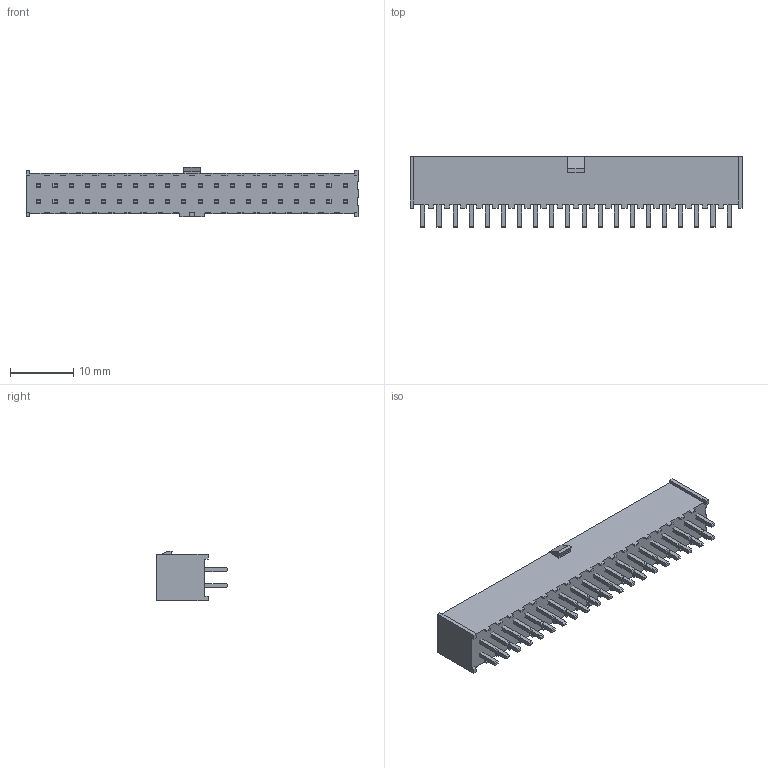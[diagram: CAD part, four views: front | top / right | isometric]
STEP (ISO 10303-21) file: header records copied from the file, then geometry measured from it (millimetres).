
FILE_DESCRIPTION(/* description */ ('STEP AP214'),/* implementation_level */ '2;1');
FILE_NAME(/* name */ 'IPL1-120-01-L-D-K',/* time_stamp */ '2026-10-31T23:04:14+01:00',/* author */ ('License CC BY-ND 4.0'),/* organization */ ('CADENAS'),/* preprocessor_version */ 'ST-DEVELOPER v20',/* originating_system */ 'PARTsolutions',/* authorisation */ ' ');
FILE_SCHEMA (('AUTOMOTIVE_DESIGN {1 0 10303 214 3 1 1}'));
Length unit declared in the file: inch
Products named in the file (4): IPL1-120-01-L-D-K; IPL1-120-01-D-K_HDR; T-1S64-01-20-L-D; T-1S64-01-20-L-D2
Assembly tree (3 placements, depth 2):
  IPL1-120-01-L-D-K
    IPL1-120-01-D-K_HDR
    T-1S64-01-20-L-D
    T-1S64-01-20-L-D2
Bounding box: 52.32 x 11.18 x 7.87 mm (x, y, z)
Volume: 1295.6 mm3; surface area: 5597.9 mm2
Topology: 3 solids, 3 shells, 982 faces, 2874 edges, 1916 vertices
Faces by surface type: plane 982
Entity records: 31963 total; most frequent: CARTESIAN_POINT 5776, ORIENTED_EDGE 5748, DIRECTION 4846, EDGE_CURVE 2874, LINE 2874, VECTOR 2874, VERTEX_POINT 1916, EDGE_LOOP 1000
